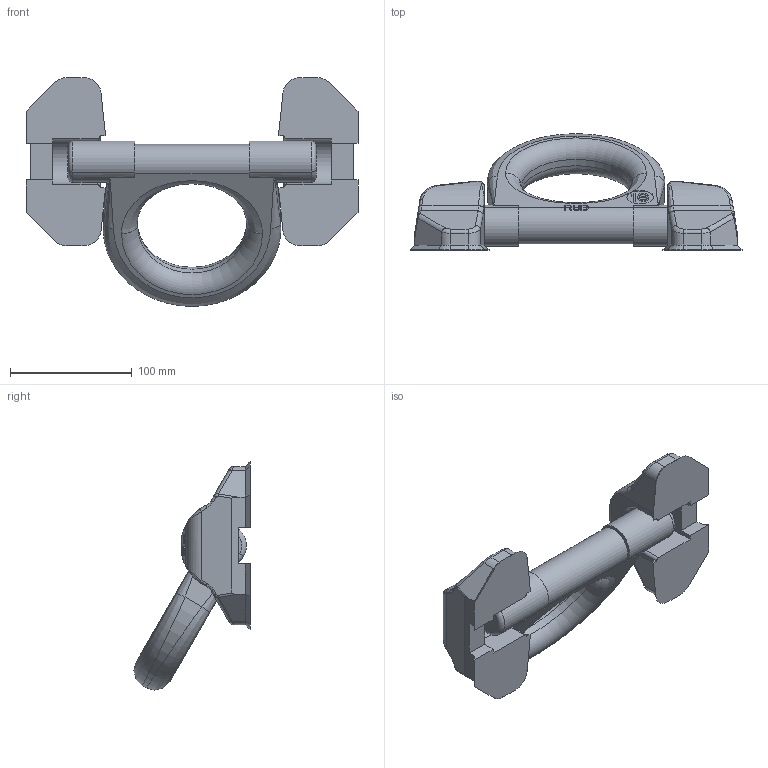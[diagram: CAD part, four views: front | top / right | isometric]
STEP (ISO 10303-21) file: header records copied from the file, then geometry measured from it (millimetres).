
FILE_DESCRIPTION((''),'2;1');
FILE_NAME('001-M31835-P-60_ASM','2008-10-28T',('Azubitbm'),('RAND'),'PRO/ENGINEER BY PARAMETRIC TECHNOLOGY CORPORATION, 2005030','PRO/ENGINEER BY PARAMETRIC TECHNOLOGY CORPORATION, 2005030','');
FILE_SCHEMA(('CONFIG_CONTROL_DESIGN'));
Length unit declared in the file: millimetre
Products named in the file (3): 001-M31835-P-1; 001-M31834-P-1; 001-M31835-P-60_ASM
Assembly tree (3 placements, depth 2):
  001-M31835-P-60_ASM
    001-M31835-P-1  x2
    001-M31834-P-1
Bounding box: 273 x 95.7 x 187.86 mm (x, y, z)
Volume: 818342.3 mm3; surface area: 107639.6 mm2
Topology: 3 solids, 3 shells, 816 faces, 2237 edges, 1446 vertices
Faces by surface type: plane 672, cylinder 62, bspline 62, cone 12, torus 8
Entity records: 19780 total; most frequent: CARTESIAN_POINT 7174, ORIENTED_EDGE 2770, DIRECTION 2315, EDGE_CURVE 1385, VECTOR 1173, LINE 1173, VERTEX_POINT 900, AXIS2_PLACEMENT_3D 571
